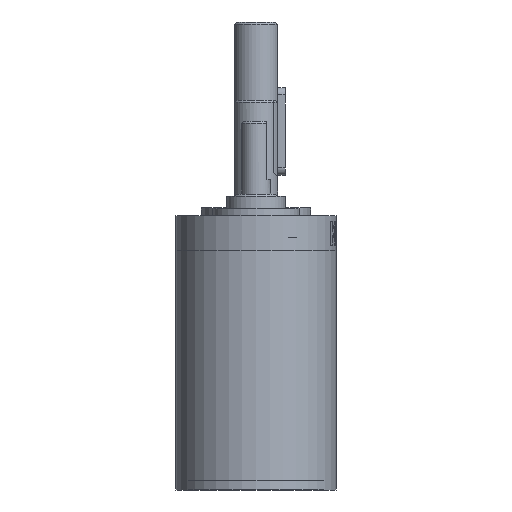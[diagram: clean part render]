
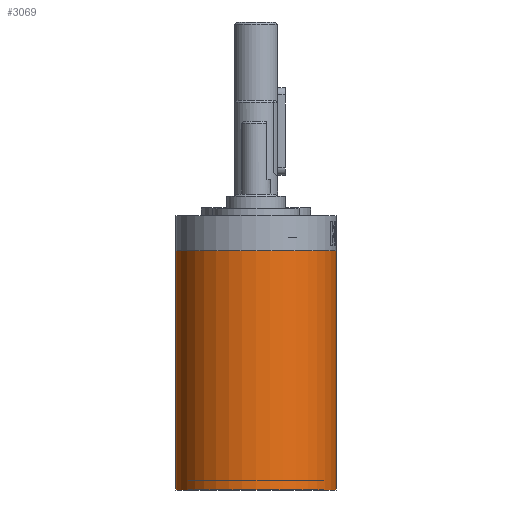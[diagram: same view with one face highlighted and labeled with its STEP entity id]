
A CAD part, left-side view. The second image highlights one B-rep face of the part: STEP entity #3069.
In plain terms, the highlighted cylindrical face has radius 11 mm (diameter 22 mm), a full revolution.
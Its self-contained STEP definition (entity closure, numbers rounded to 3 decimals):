
#2005=FACE_BOUND('',#4742,.T.);
#2006=FACE_BOUND('',#4743,.T.);
#2365=CYLINDRICAL_SURFACE('',#11499,11.);
#3069=ADVANCED_FACE('',(#2005,#2006),#2365,.T.);
#4742=EDGE_LOOP('',(#7601));
#4743=EDGE_LOOP('',(#7602));
#5345=CIRCLE('',#11497,11.);
#5346=CIRCLE('',#11498,11.);
#7601=ORIENTED_EDGE('',*,*,#9951,.F.);
#7602=ORIENTED_EDGE('',*,*,#9952,.T.);
#8833=VERTEX_POINT('',#28884);
#8834=VERTEX_POINT('',#28886);
#9951=EDGE_CURVE('',#8833,#8833,#5345,.T.);
#9952=EDGE_CURVE('',#8834,#8834,#5346,.T.);
#11497=AXIS2_PLACEMENT_3D('',#28883,#13392,#13393);
#11498=AXIS2_PLACEMENT_3D('',#28885,#13394,#13395);
#11499=AXIS2_PLACEMENT_3D('',#28887,#13396,#13397);
#13392=DIRECTION('',(0.,0.,-1.));
#13393=DIRECTION('',(1.,0.,0.));
#13394=DIRECTION('',(0.,0.,-1.));
#13395=DIRECTION('',(1.,0.,0.));
#13396=DIRECTION('',(0.,0.,1.));
#13397=DIRECTION('',(1.,0.,0.));
#28883=CARTESIAN_POINT('',(-24.,0.,0.));
#28884=CARTESIAN_POINT('',(-13.,0.,0.));
#28885=CARTESIAN_POINT('',(-24.,0.,32.799));
#28886=CARTESIAN_POINT('',(-13.,0.,32.799));
#28887=CARTESIAN_POINT('',(-24.,0.,32.4));
